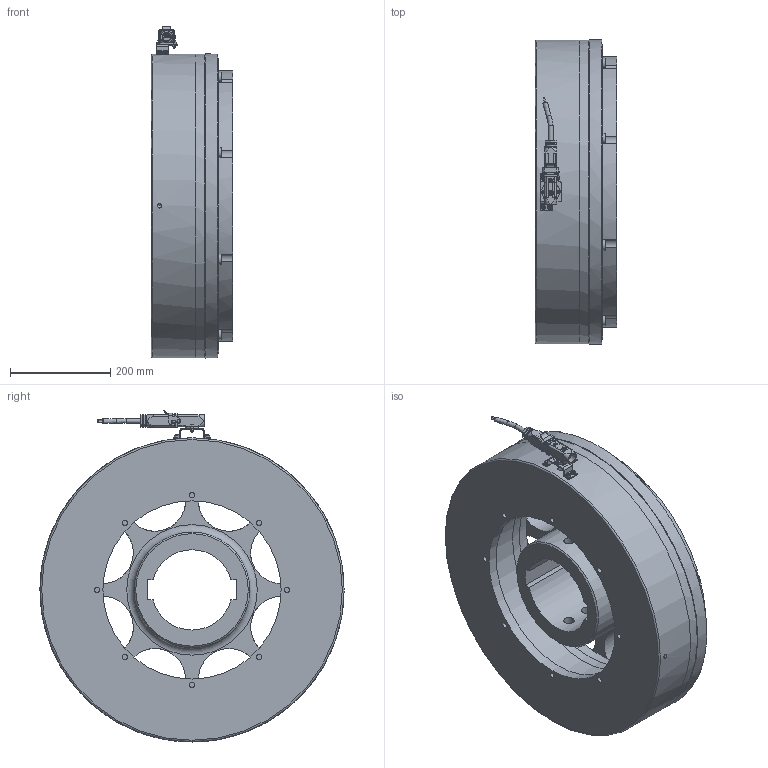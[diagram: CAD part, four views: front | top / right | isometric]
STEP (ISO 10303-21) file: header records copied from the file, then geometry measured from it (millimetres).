
FILE_DESCRIPTION(/* description */ (''),/* implementation_level */ '2;1');
FILE_NAME(/* name */ 'X:\INVENTOR\DISEGNI\08_Freni_Friz_Elettmag_Monodisco\08_28 EMFL_DF\EMFL_DF STEP\08_28_600_13 EMFL600_DF-C-MI_S@STEP.stp',/* time_stamp */ '2018-04-23T09:39:34+02:00',/* author */ ('stefano'),/* organization */ (''),/* preprocessor_version */ 'ST-DEVELOPER v17',/* originating_system */ 'Autodesk Inventor 2018',/* authorisation */ '');
FILE_SCHEMA (('AUTOMOTIVE_DESIGN { 1 0 10303 214 3 1 1 }'));
Products named in the file (1): 08_28_600_13 EMFL600_DF-C-MI - Spina_Substitute_1
Bounding box: 163 x 606 x 661.44 mm (x, y, z)
Volume: 27081658.7 mm3; surface area: 2068203.5 mm2
Topology: 3 solids, 3 shells, 1711 faces, 4936 edges, 3280 vertices
Faces by surface type: plane 1034, cylinder 528, cone 100, torus 25, bspline 21, sphere 3
Full cylindrical faces by diameter (mm): 0.753 x1, 0.986 x1, 1.05 x1, 2.5 x2, 3 x3, 3.2 x1, 3.25 x2, 3.59 x1, 4 x3, 4.675 x2, 4.8 x2, 5 x20, 5.5 x2, 6 x2, 6.2 x1, 7 x1, 8.2 x2, 8.376 x1, 8.5 x4, 9.5 x2, 10.5 x8, 12 x1, 13.5 x2, 13.835 x8, 14 x16, 16 x2, 18 x1, 18.6 x1, 19.8 x16, 20 x16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
Entity records: 60001 total; most frequent: CARTESIAN_POINT 11703, DIRECTION 9846, ORIENTED_EDGE 9840, EDGE_CURVE 4920, AXIS2_PLACEMENT_3D 3469, VERTEX_POINT 3280, LINE 2908, VECTOR 2908
